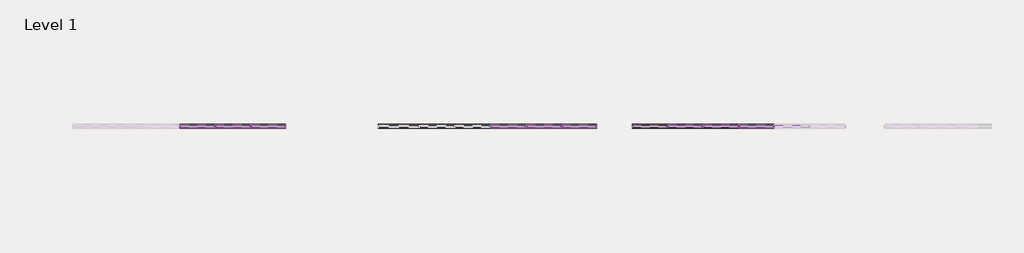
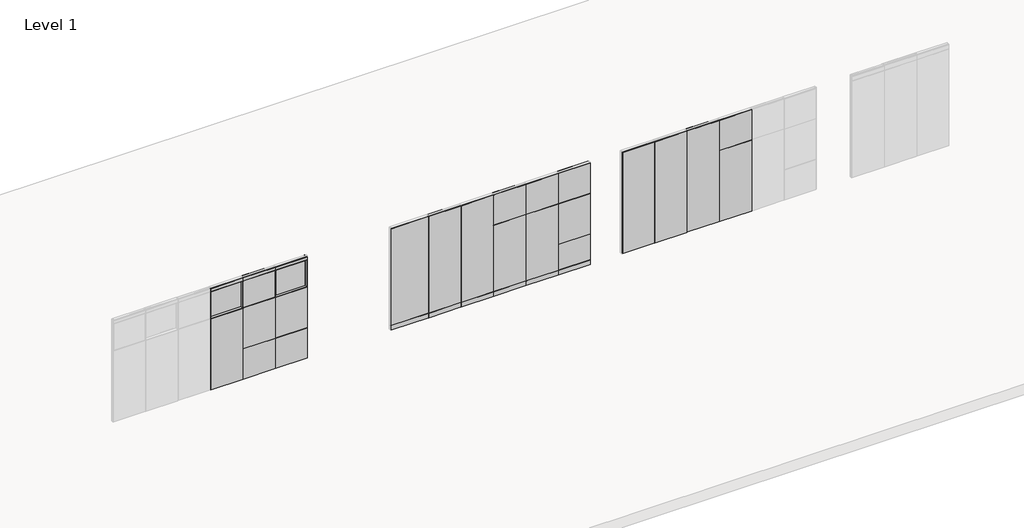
# One storey, part 15 of 22: 104 proxies.
"""IFC4 building model written with IfcOpenShell, lengths in millimetres."""

from ifc_helpers import new_model, si_unit, origin, place, context, project, spatial, transform, mapped, element, save
from components import fascia_teknion_ceiling_and_base_fpb1_33541465, fascia_teknion_ceiling_and_base_fpb1_cfc01414, fascia_teknion_ceiling_and_base_fpb1_a659cb20, fascia_teknion_ceiling_and_base_fpb1_658eb9e8, fascia_teknion_ceiling_and_base_fpb1_dc8595db, fascia_teknion_ceiling_and_base_fpb1_8b8bf328, fascia_teknion_ceiling_and_base_fpb1_c09701a2, fascia_teknion_ceiling_and_base_fpb1_cd47c96b, fascia_teknion_ceiling_and_base_fpc_0fdf7194, fascia_teknion_ceiling_and_base_fpc_b0ac7cd3, frame_teknion_horizontal_rail_5872ae1a, frame_teknion_horizontal_rail_46ee653b, frame_teknion_horizontal_rail_915d0f1b, glass_fascia_74ba01bb, glass_fascia_b43ce2ad, glass_fascia_649ace3c, level_ii_d92933f0, level_ii_5838736d, level_ii_d9937d3a, level_ii_09c6d2e8, level_ii_766fe766, level_ii_d745e7d9, level_ii_52e50c64, monolithic_level_i_61e75e15, monolithic_level_i_13c59c03, monolithic_level_i_604a00d2, monolithic_level_i_9525b381, monolithic_level_i_5f1d8d04, monolithic_level_i_f301c96f, monolithic_level_i_8e8b46f9, segmented_monolithic_level_i_26a9d159, segmented_monolithic_level_i_932c30e3, segmented_monolithic_level_i_a660c2bd, segmented_monolithic_level_i_f0d80afd, segmented_monolithic_level_i_954095a9, segmented_monolithic_level_ii_ef75357c, segmented_monolithic_level_ii_062cb124, working_wall_monolithic_level_i_dc7e04ae, working_wall_monolithic_level_i_f3196e79, working_wall_monolithic_level_i_c6955959, working_wall_monolithic_level_i_9d4bea93, working_wall_monolithic_level_i_ddf61f7f, working_wall_monolithic_level_i_49ea217e, working_wall_monolithic_level_i_39047d6b, working_wall_monolithic_level_iii_b79156b4, working_wall_monolithic_level_iii_e35548a4

model = new_model("IFC4")

# Units and contexts
model_context = context("Model", 3, world=origin())
ifc_project = project(units=[si_unit("LENGTHUNIT", "METRE", prefix="MILLI")], contexts=[model_context])

# Site, building, storey
site = spatial("IfcSite", under=ifc_project)
building = spatial("IfcBuilding", under=site)
storey = spatial("IfcBuildingStorey", under=building, Name="Level 1", Elevation=0.0)

# Proxies
placement = place(None, origin())
fascia_teknion_ceiling_and_base_fpb1_shape = fascia_teknion_ceiling_and_base_fpb1_33541465(model_context)
element("IfcBuildingElementProxy", 1, Name="Fascia-Teknion-Ceiling_and_Base : FPB1", ObjectType="Fascia-Teknion-Ceiling_and_Base : FPB1", at=placement, inside=storey, context=model_context, shape_type="MappedRepresentation", body=[
    mapped(fascia_teknion_ceiling_and_base_fpb1_shape, transform((56550.0272772, 1843.3402105, 15.875), x_axis=(1.0, 0.0, 0.0), y_axis=(0.0, 1.0, 0.0), z_axis=(0.0, 0.0, 1.0))),
])
fascia_teknion_ceiling_and_base_fpb1_2_shape = fascia_teknion_ceiling_and_base_fpb1_cfc01414(model_context)
element("IfcBuildingElementProxy", 2, Name="Fascia-Teknion-Ceiling_and_Base : FPB1", ObjectType="Fascia-Teknion-Ceiling_and_Base : FPB1", at=placement, inside=storey, context=model_context, shape_type="MappedRepresentation", body=[
    mapped(fascia_teknion_ceiling_and_base_fpb1_2_shape, transform((56550.0272772, 1781.3642105, 15.875), x_axis=(1.0, 0.0, 0.0), y_axis=(0.0, 1.0, 0.0), z_axis=(0.0, 0.0, 1.0))),
])
fascia_teknion_ceiling_and_base_fpb1_3_shape = fascia_teknion_ceiling_and_base_fpb1_a659cb20(model_context)
element("IfcBuildingElementProxy", 3, Name="Fascia-Teknion-Ceiling_and_Base : FPB1", ObjectType="Fascia-Teknion-Ceiling_and_Base : FPB1", at=placement, inside=storey, context=model_context, shape_type="MappedRepresentation", body=[
    mapped(fascia_teknion_ceiling_and_base_fpb1_3_shape, transform((54728.2221991, 1843.3402105, 15.875), x_axis=(1.0, 0.0, 0.0), y_axis=(0.0, 1.0, 0.0), z_axis=(0.0, 0.0, 1.0))),
])
element("IfcBuildingElementProxy", 4, Name="Fascia-Teknion-Ceiling_and_Base : FPB1", ObjectType="Fascia-Teknion-Ceiling_and_Base : FPB1", at=placement, inside=storey, context=model_context, shape_type="MappedRepresentation", body=[
    mapped(fascia_teknion_ceiling_and_base_fpb1_3_shape, transform((55642.6221991, 1843.3402105, 15.875), x_axis=(1.0, 0.0, 0.0), y_axis=(0.0, 1.0, 0.0), z_axis=(0.0, 0.0, 1.0))),
])
element("IfcBuildingElementProxy", 5, Name="Fascia-Teknion-Ceiling_and_Base : FPB1", ObjectType="Fascia-Teknion-Ceiling_and_Base : FPB1", at=placement, inside=storey, context=model_context, shape_type="MappedRepresentation", body=[
    mapped(fascia_teknion_ceiling_and_base_fpb1_3_shape, transform((52899.4221991, 1843.3402105, 15.875), x_axis=(1.0, 0.0, 0.0), y_axis=(0.0, 1.0, 0.0), z_axis=(0.0, 0.0, 1.0))),
])
element("IfcBuildingElementProxy", 6, Name="Fascia-Teknion-Ceiling_and_Base : FPB1", ObjectType="Fascia-Teknion-Ceiling_and_Base : FPB1", at=placement, inside=storey, context=model_context, shape_type="MappedRepresentation", body=[
    mapped(fascia_teknion_ceiling_and_base_fpb1_3_shape, transform((53813.8221991, 1843.3402105, 15.875), x_axis=(1.0, 0.0, 0.0), y_axis=(0.0, 1.0, 0.0), z_axis=(0.0, 0.0, 1.0))),
])
fascia_teknion_ceiling_and_base_fpb1_4_shape = fascia_teknion_ceiling_and_base_fpb1_658eb9e8(model_context)
element("IfcBuildingElementProxy", 7, Name="Fascia-Teknion-Ceiling_and_Base : FPB1", ObjectType="Fascia-Teknion-Ceiling_and_Base : FPB1", at=placement, inside=storey, context=model_context, shape_type="MappedRepresentation", body=[
    mapped(fascia_teknion_ceiling_and_base_fpb1_4_shape, transform((54728.2221991, 1781.3642105, 15.875), x_axis=(1.0, 0.0, 0.0), y_axis=(0.0, 1.0, 0.0), z_axis=(0.0, 0.0, 1.0))),
])
element("IfcBuildingElementProxy", 8, Name="Fascia-Teknion-Ceiling_and_Base : FPB1", ObjectType="Fascia-Teknion-Ceiling_and_Base : FPB1", at=placement, inside=storey, context=model_context, shape_type="MappedRepresentation", body=[
    mapped(fascia_teknion_ceiling_and_base_fpb1_4_shape, transform((55642.6221991, 1781.3642105, 15.875), x_axis=(1.0, 0.0, 0.0), y_axis=(0.0, 1.0, 0.0), z_axis=(0.0, 0.0, 1.0))),
])
element("IfcBuildingElementProxy", 9, Name="Fascia-Teknion-Ceiling_and_Base : FPB1", ObjectType="Fascia-Teknion-Ceiling_and_Base : FPB1", at=placement, inside=storey, context=model_context, shape_type="MappedRepresentation", body=[
    mapped(fascia_teknion_ceiling_and_base_fpb1_4_shape, transform((52899.4221991, 1781.3642105, 15.875), x_axis=(1.0, 0.0, 0.0), y_axis=(0.0, 1.0, 0.0), z_axis=(0.0, 0.0, 1.0))),
])
element("IfcBuildingElementProxy", 10, Name="Fascia-Teknion-Ceiling_and_Base : FPB1", ObjectType="Fascia-Teknion-Ceiling_and_Base : FPB1", at=placement, inside=storey, context=model_context, shape_type="MappedRepresentation", body=[
    mapped(fascia_teknion_ceiling_and_base_fpb1_4_shape, transform((53813.8221991, 1781.3642105, 15.875), x_axis=(1.0, 0.0, 0.0), y_axis=(0.0, 1.0, 0.0), z_axis=(0.0, 0.0, 1.0))),
])
fascia_teknion_ceiling_and_base_fpb1_5_shape = fascia_teknion_ceiling_and_base_fpb1_dc8595db(model_context)
element("IfcBuildingElementProxy", 11, Name="Fascia-Teknion-Ceiling_and_Base : FPB1", ObjectType="Fascia-Teknion-Ceiling_and_Base : FPB1", at=placement, inside=storey, context=model_context, shape_type="MappedRepresentation", body=[
    mapped(fascia_teknion_ceiling_and_base_fpb1_5_shape, transform((51915.817121, 1781.3642105, 15.875), x_axis=(1.0, 0.0, 0.0), y_axis=(0.0, 1.0, 0.0), z_axis=(0.0, 0.0, 1.0))),
])
fascia_teknion_ceiling_and_base_fpb1_6_shape = fascia_teknion_ceiling_and_base_fpb1_8b8bf328(model_context)
element("IfcBuildingElementProxy", 12, Name="Fascia-Teknion-Ceiling_and_Base : FPB1", ObjectType="Fascia-Teknion-Ceiling_and_Base : FPB1", at=placement, inside=storey, context=model_context, shape_type="MappedRepresentation", body=[
    mapped(fascia_teknion_ceiling_and_base_fpb1_6_shape, transform((51915.817121, 1843.3402105, 15.875), x_axis=(1.0, 0.0, 0.0), y_axis=(0.0, 1.0, 0.0), z_axis=(0.0, 0.0, 1.0))),
])
fascia_teknion_ceiling_and_base_fpb1_7_shape = fascia_teknion_ceiling_and_base_fpb1_c09701a2(model_context)
element("IfcBuildingElementProxy", 13, Name="Fascia-Teknion-Ceiling_and_Base : FPC", ObjectType="Fascia-Teknion-Ceiling_and_Base : FPC", at=placement, inside=storey, context=model_context, shape_type="MappedRepresentation", body=[
    mapped(fascia_teknion_ceiling_and_base_fpb1_7_shape, transform((48570.2009696, 1781.3642105, 2950.845), x_axis=(1.0, 0.0, 0.0), y_axis=(0.0, 1.0, 0.0), z_axis=(0.0, 0.0, 1.0))),
])
fascia_teknion_ceiling_and_base_fpb1_8_shape = fascia_teknion_ceiling_and_base_fpb1_cd47c96b(model_context)
element("IfcBuildingElementProxy", 14, Name="Fascia-Teknion-Ceiling_and_Base : FPC", ObjectType="Fascia-Teknion-Ceiling_and_Base : FPC", at=placement, inside=storey, context=model_context, shape_type="MappedRepresentation", body=[
    mapped(fascia_teknion_ceiling_and_base_fpb1_8_shape, transform((48570.2009696, 1843.3402105, 2950.845), x_axis=(1.0, 0.0, 0.0), y_axis=(0.0, 1.0, 0.0), z_axis=(0.0, 0.0, 1.0))),
])
fascia_teknion_ceiling_and_base_fpc_shape = fascia_teknion_ceiling_and_base_fpc_0fdf7194(model_context)
element("IfcBuildingElementProxy", 15, Name="Fascia-Teknion-Ceiling_and_Base : FPC", ObjectType="Fascia-Teknion-Ceiling_and_Base : FPC", at=placement, inside=storey, context=model_context, shape_type="MappedRepresentation", body=[
    mapped(fascia_teknion_ceiling_and_base_fpc_shape, transform((47662.7958915, 1781.3642105, 2950.845), x_axis=(1.0, 0.0, 0.0), y_axis=(0.0, 1.0, 0.0), z_axis=(0.0, 0.0, 1.0))),
])
element("IfcBuildingElementProxy", 16, Name="Fascia-Teknion-Ceiling_and_Base : FPC", ObjectType="Fascia-Teknion-Ceiling_and_Base : FPC", at=placement, inside=storey, context=model_context, shape_type="MappedRepresentation", body=[
    mapped(fascia_teknion_ceiling_and_base_fpc_shape, transform((46748.3958915, 1781.3642105, 2950.845), x_axis=(1.0, 0.0, 0.0), y_axis=(0.0, 1.0, 0.0), z_axis=(0.0, 0.0, 1.0))),
])
fascia_teknion_ceiling_and_base_fpc_2_shape = fascia_teknion_ceiling_and_base_fpc_b0ac7cd3(model_context)
element("IfcBuildingElementProxy", 17, Name="Fascia-Teknion-Ceiling_and_Base : FPC", ObjectType="Fascia-Teknion-Ceiling_and_Base : FPC", at=placement, inside=storey, context=model_context, shape_type="MappedRepresentation", body=[
    mapped(fascia_teknion_ceiling_and_base_fpc_2_shape, transform((47662.7958915, 1843.3402105, 2950.845), x_axis=(1.0, 0.0, 0.0), y_axis=(0.0, 1.0, 0.0), z_axis=(0.0, 0.0, 1.0))),
])
element("IfcBuildingElementProxy", 18, Name="Fascia-Teknion-Ceiling_and_Base : FPC", ObjectType="Fascia-Teknion-Ceiling_and_Base : FPC", at=placement, inside=storey, context=model_context, shape_type="MappedRepresentation", body=[
    mapped(fascia_teknion_ceiling_and_base_fpc_2_shape, transform((46748.3958915, 1843.3402105, 2950.845), x_axis=(1.0, 0.0, 0.0), y_axis=(0.0, 1.0, 0.0), z_axis=(0.0, 0.0, 1.0))),
])
frame_teknion_horizontal_rail_shape = frame_teknion_horizontal_rail_5872ae1a(model_context)
element("IfcBuildingElementProxy", 19, Name="Frame-Teknion-Horizontal_Rail : FPKK", ObjectType="Frame-Teknion-Horizontal_Rail : FPKK", at=placement, inside=storey, context=model_context, shape_type="MappedRepresentation", body=[
    mapped(frame_teknion_horizontal_rail_shape, transform((56550.0272772, 1812.3522105, 917.575), x_axis=(1.0, 0.0, 0.0), y_axis=(0.0, 1.0, 0.0), z_axis=(0.0, 0.0, 1.0))),
])
element("IfcBuildingElementProxy", 20, Name="Frame-Teknion-Horizontal_Rail : FPKK", ObjectType="Frame-Teknion-Horizontal_Rail : FPKK", at=placement, inside=storey, context=model_context, shape_type="MappedRepresentation", body=[
    mapped(frame_teknion_horizontal_rail_shape, transform((56550.0272772, 1812.3522105, 151.257), x_axis=(1.0, 0.0, 0.0), y_axis=(0.0, 1.0, 0.0), z_axis=(0.0, 0.0, 1.0))),
])
element("IfcBuildingElementProxy", 21, Name="Frame-Teknion-Horizontal_Rail : FPKK", ObjectType="Frame-Teknion-Horizontal_Rail : FPKK", at=placement, inside=storey, context=model_context, shape_type="MappedRepresentation", body=[
    mapped(frame_teknion_horizontal_rail_shape, transform((56550.0272772, 1812.3522105, 2136.775), x_axis=(1.0, 0.0, 0.0), y_axis=(0.0, 1.0, 0.0), z_axis=(0.0, 0.0, 1.0))),
])
element("IfcBuildingElementProxy", 22, Name="Frame-Teknion-Horizontal_Rail : FPKK", ObjectType="Frame-Teknion-Horizontal_Rail : FPKK", at=placement, inside=storey, context=model_context, shape_type="MappedRepresentation", body=[
    mapped(frame_teknion_horizontal_rail_shape, transform((58362.0641382, 1812.3522105, 2136.775), x_axis=(1.0, 0.0, 0.0), y_axis=(0.0, 1.0, 0.0), z_axis=(0.0, 0.0, 1.0))),
])
element("IfcBuildingElementProxy", 23, Name="Frame-Teknion-Horizontal_Rail : FPKK", ObjectType="Frame-Teknion-Horizontal_Rail : FPKK", at=placement, inside=storey, context=model_context, shape_type="MappedRepresentation", body=[
    mapped(frame_teknion_horizontal_rail_shape, transform((58362.0641382, 1812.3522105, 151.257), x_axis=(1.0, 0.0, 0.0), y_axis=(0.0, 1.0, 0.0), z_axis=(0.0, 0.0, 1.0))),
])
element("IfcBuildingElementProxy", 24, Name="Frame-Teknion-Horizontal_Rail : FPKK", ObjectType="Frame-Teknion-Horizontal_Rail : FPKK", at=placement, inside=storey, context=model_context, shape_type="MappedRepresentation", body=[
    mapped(frame_teknion_horizontal_rail_shape, transform((58362.0641382, 1812.3522105, 2898.3305), x_axis=(1.0, 0.0, 0.0), y_axis=(0.0, 1.0, 0.0), z_axis=(0.0, 0.0, 1.0))),
])
element("IfcBuildingElementProxy", 25, Name="Frame-Teknion-Horizontal_Rail : FPKK", ObjectType="Frame-Teknion-Horizontal_Rail : FPKK", at=placement, inside=storey, context=model_context, shape_type="MappedRepresentation", body=[
    mapped(frame_teknion_horizontal_rail_shape, transform((62920.0742944, 1812.3522105, 2136.775), x_axis=(1.0, 0.0, 0.0), y_axis=(0.0, 1.0, 0.0), z_axis=(0.0, 0.0, 1.0))),
])
element("IfcBuildingElementProxy", 26, Name="Frame-Teknion-Horizontal_Rail : FPKK", ObjectType="Frame-Teknion-Horizontal_Rail : FPKK", at=placement, inside=storey, context=model_context, shape_type="MappedRepresentation", body=[
    mapped(frame_teknion_horizontal_rail_shape, transform((48570.2009696, 1812.3522105, 2136.775), x_axis=(1.0, 0.0, 0.0), y_axis=(0.0, 1.0, 0.0), z_axis=(0.0, 0.0, 1.0))),
])
element("IfcBuildingElementProxy", 27, Name="Frame-Teknion-Horizontal_Rail : FPKK", ObjectType="Frame-Teknion-Horizontal_Rail : FPKK", at=placement, inside=storey, context=model_context, shape_type="MappedRepresentation", body=[
    mapped(frame_teknion_horizontal_rail_shape, transform((48570.2009696, 1812.3522105, 2949.1305), x_axis=(1.0, 0.0, 0.0), y_axis=(0.0, 1.0, 0.0), z_axis=(0.0, 0.0, 1.0))),
])
element("IfcBuildingElementProxy", 28, Name="Frame-Teknion-Horizontal_Rail : FPKK", ObjectType="Frame-Teknion-Horizontal_Rail : FPKK", at=placement, inside=storey, context=model_context, shape_type="MappedRepresentation", body=[
    mapped(frame_teknion_horizontal_rail_shape, transform((48570.2009696, 1812.3522105, 917.575), x_axis=(1.0, 0.0, 0.0), y_axis=(0.0, 1.0, 0.0), z_axis=(0.0, 0.0, 1.0))),
])
frame_teknion_horizontal_rail_2_shape = frame_teknion_horizontal_rail_46ee653b(model_context)
element("IfcBuildingElementProxy", 29, Name="Frame-Teknion-Horizontal_Rail : FPKK", ObjectType="Frame-Teknion-Horizontal_Rail : FPKK", at=placement, inside=storey, context=model_context, shape_type="MappedRepresentation", body=[
    mapped(frame_teknion_horizontal_rail_2_shape, transform((52899.4221991, 1812.3522105, 917.575), x_axis=(1.0, 0.0, 0.0), y_axis=(0.0, 1.0, 0.0), z_axis=(0.0, 0.0, 1.0))),
])
element("IfcBuildingElementProxy", 30, Name="Frame-Teknion-Horizontal_Rail : FPKK", ObjectType="Frame-Teknion-Horizontal_Rail : FPKK", at=placement, inside=storey, context=model_context, shape_type="MappedRepresentation", body=[
    mapped(frame_teknion_horizontal_rail_2_shape, transform((52899.4221991, 1812.3522105, 151.257), x_axis=(1.0, 0.0, 0.0), y_axis=(0.0, 1.0, 0.0), z_axis=(0.0, 0.0, 1.0))),
])
element("IfcBuildingElementProxy", 31, Name="Frame-Teknion-Horizontal_Rail : FPKK", ObjectType="Frame-Teknion-Horizontal_Rail : FPKK", at=placement, inside=storey, context=model_context, shape_type="MappedRepresentation", body=[
    mapped(frame_teknion_horizontal_rail_2_shape, transform((53813.8221991, 1812.3522105, 917.575), x_axis=(1.0, 0.0, 0.0), y_axis=(0.0, 1.0, 0.0), z_axis=(0.0, 0.0, 1.0))),
])
element("IfcBuildingElementProxy", 32, Name="Frame-Teknion-Horizontal_Rail : FPKK", ObjectType="Frame-Teknion-Horizontal_Rail : FPKK", at=placement, inside=storey, context=model_context, shape_type="MappedRepresentation", body=[
    mapped(frame_teknion_horizontal_rail_2_shape, transform((53813.8221991, 1812.3522105, 151.257), x_axis=(1.0, 0.0, 0.0), y_axis=(0.0, 1.0, 0.0), z_axis=(0.0, 0.0, 1.0))),
])
element("IfcBuildingElementProxy", 33, Name="Frame-Teknion-Horizontal_Rail : FPKK", ObjectType="Frame-Teknion-Horizontal_Rail : FPKK", at=placement, inside=storey, context=model_context, shape_type="MappedRepresentation", body=[
    mapped(frame_teknion_horizontal_rail_2_shape, transform((54728.2221991, 1812.3522105, 151.257), x_axis=(1.0, 0.0, 0.0), y_axis=(0.0, 1.0, 0.0), z_axis=(0.0, 0.0, 1.0))),
])
element("IfcBuildingElementProxy", 34, Name="Frame-Teknion-Horizontal_Rail : FPKK", ObjectType="Frame-Teknion-Horizontal_Rail : FPKK", at=placement, inside=storey, context=model_context, shape_type="MappedRepresentation", body=[
    mapped(frame_teknion_horizontal_rail_2_shape, transform((55642.6221991, 1812.3522105, 151.257), x_axis=(1.0, 0.0, 0.0), y_axis=(0.0, 1.0, 0.0), z_axis=(0.0, 0.0, 1.0))),
])
element("IfcBuildingElementProxy", 35, Name="Frame-Teknion-Horizontal_Rail : FPKK", ObjectType="Frame-Teknion-Horizontal_Rail : FPKK", at=placement, inside=storey, context=model_context, shape_type="MappedRepresentation", body=[
    mapped(frame_teknion_horizontal_rail_2_shape, transform((54728.2221991, 1812.3522105, 2136.775), x_axis=(1.0, 0.0, 0.0), y_axis=(0.0, 1.0, 0.0), z_axis=(0.0, 0.0, 1.0))),
])
element("IfcBuildingElementProxy", 36, Name="Frame-Teknion-Horizontal_Rail : FPKK", ObjectType="Frame-Teknion-Horizontal_Rail : FPKK", at=placement, inside=storey, context=model_context, shape_type="MappedRepresentation", body=[
    mapped(frame_teknion_horizontal_rail_2_shape, transform((55642.6221991, 1812.3522105, 2136.775), x_axis=(1.0, 0.0, 0.0), y_axis=(0.0, 1.0, 0.0), z_axis=(0.0, 0.0, 1.0))),
])
element("IfcBuildingElementProxy", 37, Name="Frame-Teknion-Horizontal_Rail : FPKK", ObjectType="Frame-Teknion-Horizontal_Rail : FPKK", at=placement, inside=storey, context=model_context, shape_type="MappedRepresentation", body=[
    mapped(frame_teknion_horizontal_rail_2_shape, transform((59269.4692163, 1812.3522105, 2136.775), x_axis=(1.0, 0.0, 0.0), y_axis=(0.0, 1.0, 0.0), z_axis=(0.0, 0.0, 1.0))),
])
element("IfcBuildingElementProxy", 38, Name="Frame-Teknion-Horizontal_Rail : FPKK", ObjectType="Frame-Teknion-Horizontal_Rail : FPKK", at=placement, inside=storey, context=model_context, shape_type="MappedRepresentation", body=[
    mapped(frame_teknion_horizontal_rail_2_shape, transform((59269.4692163, 1812.3522105, 151.257), x_axis=(1.0, 0.0, 0.0), y_axis=(0.0, 1.0, 0.0), z_axis=(0.0, 0.0, 1.0))),
])
element("IfcBuildingElementProxy", 39, Name="Frame-Teknion-Horizontal_Rail : FPKK", ObjectType="Frame-Teknion-Horizontal_Rail : FPKK", at=placement, inside=storey, context=model_context, shape_type="MappedRepresentation", body=[
    mapped(frame_teknion_horizontal_rail_2_shape, transform((59269.4692163, 1812.3522105, 2898.3305), x_axis=(1.0, 0.0, 0.0), y_axis=(0.0, 1.0, 0.0), z_axis=(0.0, 0.0, 1.0))),
])
element("IfcBuildingElementProxy", 40, Name="Frame-Teknion-Horizontal_Rail : FPKK", ObjectType="Frame-Teknion-Horizontal_Rail : FPKK", at=placement, inside=storey, context=model_context, shape_type="MappedRepresentation", body=[
    mapped(frame_teknion_horizontal_rail_2_shape, transform((60183.8692163, 1812.3522105, 2136.775), x_axis=(1.0, 0.0, 0.0), y_axis=(0.0, 1.0, 0.0), z_axis=(0.0, 0.0, 1.0))),
])
element("IfcBuildingElementProxy", 41, Name="Frame-Teknion-Horizontal_Rail : FPKK", ObjectType="Frame-Teknion-Horizontal_Rail : FPKK", at=placement, inside=storey, context=model_context, shape_type="MappedRepresentation", body=[
    mapped(frame_teknion_horizontal_rail_2_shape, transform((60183.8692163, 1812.3522105, 151.257), x_axis=(1.0, 0.0, 0.0), y_axis=(0.0, 1.0, 0.0), z_axis=(0.0, 0.0, 1.0))),
])
element("IfcBuildingElementProxy", 42, Name="Frame-Teknion-Horizontal_Rail : FPKK", ObjectType="Frame-Teknion-Horizontal_Rail : FPKK", at=placement, inside=storey, context=model_context, shape_type="MappedRepresentation", body=[
    mapped(frame_teknion_horizontal_rail_2_shape, transform((60183.8692163, 1812.3522105, 2898.3305), x_axis=(1.0, 0.0, 0.0), y_axis=(0.0, 1.0, 0.0), z_axis=(0.0, 0.0, 1.0))),
])
element("IfcBuildingElementProxy", 43, Name="Frame-Teknion-Horizontal_Rail : FPKK", ObjectType="Frame-Teknion-Horizontal_Rail : FPKK", at=placement, inside=storey, context=model_context, shape_type="MappedRepresentation", body=[
    mapped(frame_teknion_horizontal_rail_2_shape, transform((61098.2692163, 1812.3522105, 2136.775), x_axis=(1.0, 0.0, 0.0), y_axis=(0.0, 1.0, 0.0), z_axis=(0.0, 0.0, 1.0))),
])
element("IfcBuildingElementProxy", 44, Name="Frame-Teknion-Horizontal_Rail : FPKK", ObjectType="Frame-Teknion-Horizontal_Rail : FPKK", at=placement, inside=storey, context=model_context, shape_type="MappedRepresentation", body=[
    mapped(frame_teknion_horizontal_rail_2_shape, transform((61098.2692163, 1812.3522105, 151.257), x_axis=(1.0, 0.0, 0.0), y_axis=(0.0, 1.0, 0.0), z_axis=(0.0, 0.0, 1.0))),
])
element("IfcBuildingElementProxy", 45, Name="Frame-Teknion-Horizontal_Rail : FPKK", ObjectType="Frame-Teknion-Horizontal_Rail : FPKK", at=placement, inside=storey, context=model_context, shape_type="MappedRepresentation", body=[
    mapped(frame_teknion_horizontal_rail_2_shape, transform((61098.2692163, 1812.3522105, 2898.3305), x_axis=(1.0, 0.0, 0.0), y_axis=(0.0, 1.0, 0.0), z_axis=(0.0, 0.0, 1.0))),
])
element("IfcBuildingElementProxy", 46, Name="Frame-Teknion-Horizontal_Rail : FPKK", ObjectType="Frame-Teknion-Horizontal_Rail : FPKK", at=placement, inside=storey, context=model_context, shape_type="MappedRepresentation", body=[
    mapped(frame_teknion_horizontal_rail_2_shape, transform((62012.6692163, 1812.3522105, 2136.775), x_axis=(1.0, 0.0, 0.0), y_axis=(0.0, 1.0, 0.0), z_axis=(0.0, 0.0, 1.0))),
])
element("IfcBuildingElementProxy", 47, Name="Frame-Teknion-Horizontal_Rail : FPKK", ObjectType="Frame-Teknion-Horizontal_Rail : FPKK", at=placement, inside=storey, context=model_context, shape_type="MappedRepresentation", body=[
    mapped(frame_teknion_horizontal_rail_2_shape, transform((62012.6692163, 1812.3522105, 151.257), x_axis=(1.0, 0.0, 0.0), y_axis=(0.0, 1.0, 0.0), z_axis=(0.0, 0.0, 1.0))),
])
element("IfcBuildingElementProxy", 48, Name="Frame-Teknion-Horizontal_Rail : FPKK", ObjectType="Frame-Teknion-Horizontal_Rail : FPKK", at=placement, inside=storey, context=model_context, shape_type="MappedRepresentation", body=[
    mapped(frame_teknion_horizontal_rail_2_shape, transform((62012.6692163, 1812.3522105, 2898.3305), x_axis=(1.0, 0.0, 0.0), y_axis=(0.0, 1.0, 0.0), z_axis=(0.0, 0.0, 1.0))),
])
element("IfcBuildingElementProxy", 49, Name="Frame-Teknion-Horizontal_Rail : FPKK", ObjectType="Frame-Teknion-Horizontal_Rail : FPKK", at=placement, inside=storey, context=model_context, shape_type="MappedRepresentation", body=[
    mapped(frame_teknion_horizontal_rail_2_shape, transform((60183.8692163, 1812.3522105, 917.575), x_axis=(1.0, 0.0, 0.0), y_axis=(0.0, 1.0, 0.0), z_axis=(0.0, 0.0, 1.0))),
])
element("IfcBuildingElementProxy", 50, Name="Frame-Teknion-Horizontal_Rail : FPKK", ObjectType="Frame-Teknion-Horizontal_Rail : FPKK", at=placement, inside=storey, context=model_context, shape_type="MappedRepresentation", body=[
    mapped(frame_teknion_horizontal_rail_2_shape, transform((47662.7958915, 1812.3522105, 2136.775), x_axis=(1.0, 0.0, 0.0), y_axis=(0.0, 1.0, 0.0), z_axis=(0.0, 0.0, 1.0))),
])
element("IfcBuildingElementProxy", 51, Name="Frame-Teknion-Horizontal_Rail : FPKK", ObjectType="Frame-Teknion-Horizontal_Rail : FPKK", at=placement, inside=storey, context=model_context, shape_type="MappedRepresentation", body=[
    mapped(frame_teknion_horizontal_rail_2_shape, transform((47662.7958915, 1812.3522105, 2949.1305), x_axis=(1.0, 0.0, 0.0), y_axis=(0.0, 1.0, 0.0), z_axis=(0.0, 0.0, 1.0))),
])
element("IfcBuildingElementProxy", 52, Name="Frame-Teknion-Horizontal_Rail : FPKK", ObjectType="Frame-Teknion-Horizontal_Rail : FPKK", at=placement, inside=storey, context=model_context, shape_type="MappedRepresentation", body=[
    mapped(frame_teknion_horizontal_rail_2_shape, transform((46748.3958915, 1812.3522105, 2136.775), x_axis=(1.0, 0.0, 0.0), y_axis=(0.0, 1.0, 0.0), z_axis=(0.0, 0.0, 1.0))),
])
element("IfcBuildingElementProxy", 53, Name="Frame-Teknion-Horizontal_Rail : FPKK", ObjectType="Frame-Teknion-Horizontal_Rail : FPKK", at=placement, inside=storey, context=model_context, shape_type="MappedRepresentation", body=[
    mapped(frame_teknion_horizontal_rail_2_shape, transform((46748.3958915, 1812.3522105, 2949.1305), x_axis=(1.0, 0.0, 0.0), y_axis=(0.0, 1.0, 0.0), z_axis=(0.0, 0.0, 1.0))),
])
element("IfcBuildingElementProxy", 54, Name="Frame-Teknion-Horizontal_Rail : FPKK", ObjectType="Frame-Teknion-Horizontal_Rail : FPKK", at=placement, inside=storey, context=model_context, shape_type="MappedRepresentation", body=[
    mapped(frame_teknion_horizontal_rail_2_shape, transform((46748.3958915, 1812.3522105, 917.575), x_axis=(1.0, 0.0, 0.0), y_axis=(0.0, 1.0, 0.0), z_axis=(0.0, 0.0, 1.0))),
])
element("IfcBuildingElementProxy", 55, Name="Frame-Teknion-Horizontal_Rail : FPKK", ObjectType="Frame-Teknion-Horizontal_Rail : FPKK", at=placement, inside=storey, context=model_context, shape_type="MappedRepresentation", body=[
    mapped(frame_teknion_horizontal_rail_2_shape, transform((47662.7958915, 1812.3522105, 917.575), x_axis=(1.0, 0.0, 0.0), y_axis=(0.0, 1.0, 0.0), z_axis=(0.0, 0.0, 1.0))),
])
frame_teknion_horizontal_rail_3_shape = frame_teknion_horizontal_rail_915d0f1b(model_context)
element("IfcBuildingElementProxy", 56, Name="Frame-Teknion-Horizontal_Rail : FPKK", ObjectType="Frame-Teknion-Horizontal_Rail : FPKK", at=placement, inside=storey, context=model_context, shape_type="MappedRepresentation", body=[
    mapped(frame_teknion_horizontal_rail_3_shape, transform((51915.817121, 1812.3522105, 917.575), x_axis=(1.0, 0.0, 0.0), y_axis=(0.0, 1.0, 0.0), z_axis=(0.0, 0.0, 1.0))),
])
element("IfcBuildingElementProxy", 57, Name="Frame-Teknion-Horizontal_Rail : FPKK", ObjectType="Frame-Teknion-Horizontal_Rail : FPKK", at=placement, inside=storey, context=model_context, shape_type="MappedRepresentation", body=[
    mapped(frame_teknion_horizontal_rail_3_shape, transform((51915.817121, 1812.3522105, 151.257), x_axis=(1.0, 0.0, 0.0), y_axis=(0.0, 1.0, 0.0), z_axis=(0.0, 0.0, 1.0))),
])
glass_fascia_shape = glass_fascia_74ba01bb(model_context)
element("IfcBuildingElementProxy", 58, Name="Panel-Fascia-Teknion-Altos-Glass : Glass Fascia", ObjectType="Panel-Fascia-Teknion-Altos-Glass : Glass Fascia", at=placement, inside=storey, context=model_context, shape_type="MappedRepresentation", body=[
    mapped(glass_fascia_shape, transform((48570.2009696, 1812.3522105, 2136.775), x_axis=(1.0, 0.0, 0.0), y_axis=(0.0, 1.0, 0.0), z_axis=(0.0, 0.0, 1.0))),
])
glass_fascia_2_shape = glass_fascia_b43ce2ad(model_context)
element("IfcBuildingElementProxy", 59, Name="Panel-Fascia-Teknion-Altos-Glass : Glass Fascia", ObjectType="Panel-Fascia-Teknion-Altos-Glass : Glass Fascia", at=placement, inside=storey, context=model_context, shape_type="MappedRepresentation", body=[
    mapped(glass_fascia_2_shape, transform((47662.7958915, 1812.3522105, 2136.775), x_axis=(1.0, 0.0, 0.0), y_axis=(0.0, 1.0, 0.0), z_axis=(0.0, 0.0, 1.0))),
])
glass_fascia_3_shape = glass_fascia_649ace3c(model_context)
element("IfcBuildingElementProxy", 60, Name="Panel-Fascia-Teknion-Altos-Glass : Glass Fascia", ObjectType="Panel-Fascia-Teknion-Altos-Glass : Glass Fascia", at=placement, inside=storey, context=model_context, shape_type="MappedRepresentation", body=[
    mapped(glass_fascia_3_shape, transform((46748.3958915, 1812.3522105, 2136.775), x_axis=(1.0, 0.0, 0.0), y_axis=(0.0, 1.0, 0.0), z_axis=(0.0, 0.0, 1.0))),
])
level_ii_shape = level_ii_d92933f0(model_context)
element("IfcBuildingElementProxy", 61, Name="Panel-Fascia-Teknion-Altos-Standard : Level II", ObjectType="Panel-Fascia-Teknion-Altos-Standard : Level II", at=placement, inside=storey, context=model_context, shape_type="MappedRepresentation", body=[
    mapped(level_ii_shape, transform((56550.0272772, 1852.8652105, 917.575), x_axis=(1.0, 0.0, 0.0), y_axis=(0.0, 1.0, 0.0), z_axis=(0.0, 0.0, 1.0))),
])
level_ii_2_shape = level_ii_5838736d(model_context)
element("IfcBuildingElementProxy", 62, Name="Panel-Fascia-Teknion-Altos-Standard : Level II", ObjectType="Panel-Fascia-Teknion-Altos-Standard : Level II", at=placement, inside=storey, context=model_context, shape_type="MappedRepresentation", body=[
    mapped(level_ii_2_shape, transform((60183.8692163, 1852.8652105, 917.575), x_axis=(1.0, 0.0, 0.0), y_axis=(0.0, 1.0, 0.0), z_axis=(0.0, 0.0, 1.0))),
])
level_ii_3_shape = level_ii_d9937d3a(model_context)
element("IfcBuildingElementProxy", 63, Name="Panel-Fascia-Teknion-Altos-Standard : Level II", ObjectType="Panel-Fascia-Teknion-Altos-Standard : Level II", at=placement, inside=storey, context=model_context, shape_type="MappedRepresentation", body=[
    mapped(level_ii_3_shape, transform((56550.0272772, 1771.8392105, 917.575), x_axis=(1.0, 0.0, 0.0), y_axis=(0.0, 1.0, 0.0), z_axis=(0.0, 0.0, 1.0))),
])
level_ii_4_shape = level_ii_09c6d2e8(model_context)
element("IfcBuildingElementProxy", 64, Name="Panel-Fascia-Teknion-Altos-Standard : Level II", ObjectType="Panel-Fascia-Teknion-Altos-Standard : Level II", at=placement, inside=storey, context=model_context, shape_type="MappedRepresentation", body=[
    mapped(level_ii_4_shape, transform((46748.3958915, 1852.8652105, 917.575), x_axis=(1.0, 0.0, 0.0), y_axis=(0.0, 1.0, 0.0), z_axis=(0.0, 0.0, 1.0))),
])
element("IfcBuildingElementProxy", 65, Name="Panel-Fascia-Teknion-Altos-Standard : Level II", ObjectType="Panel-Fascia-Teknion-Altos-Standard : Level II", at=placement, inside=storey, context=model_context, shape_type="MappedRepresentation", body=[
    mapped(level_ii_4_shape, transform((47662.7958915, 1852.8652105, 917.575), x_axis=(1.0, 0.0, 0.0), y_axis=(0.0, 1.0, 0.0), z_axis=(0.0, 0.0, 1.0))),
])
level_ii_5_shape = level_ii_766fe766(model_context)
element("IfcBuildingElementProxy", 66, Name="Panel-Fascia-Teknion-Altos-Standard : Level II", ObjectType="Panel-Fascia-Teknion-Altos-Standard : Level II", at=placement, inside=storey, context=model_context, shape_type="MappedRepresentation", body=[
    mapped(level_ii_5_shape, transform((48570.2009696, 1771.8392105, 917.575), x_axis=(1.0, 0.0, 0.0), y_axis=(0.0, 1.0, 0.0), z_axis=(0.0, 0.0, 1.0))),
])
level_ii_6_shape = level_ii_d745e7d9(model_context)
element("IfcBuildingElementProxy", 67, Name="Panel-Fascia-Teknion-Altos-Standard : Level II", ObjectType="Panel-Fascia-Teknion-Altos-Standard : Level II", at=placement, inside=storey, context=model_context, shape_type="MappedRepresentation", body=[
    mapped(level_ii_6_shape, transform((48570.2009696, 1852.8652105, 917.575), x_axis=(1.0, 0.0, 0.0), y_axis=(0.0, 1.0, 0.0), z_axis=(0.0, 0.0, 1.0))),
])
level_ii_7_shape = level_ii_52e50c64(model_context)
element("IfcBuildingElementProxy", 68, Name="Panel-Fascia-Teknion-Altos-Standard : Level II", ObjectType="Panel-Fascia-Teknion-Altos-Standard : Level II", at=placement, inside=storey, context=model_context, shape_type="MappedRepresentation", body=[
    mapped(level_ii_7_shape, transform((47662.7958915, 1771.8392105, 917.575), x_axis=(1.0, 0.0, 0.0), y_axis=(0.0, 1.0, 0.0), z_axis=(0.0, 0.0, 1.0))),
])
monolithic_level_i_shape = monolithic_level_i_61e75e15(model_context)
element("IfcBuildingElementProxy", 69, Name="Panel-Fascia-Teknion-Altos-Standard : Monolithic Level I", ObjectType="Panel-Fascia-Teknion-Altos-Standard : Monolithic Level I", at=placement, inside=storey, context=model_context, shape_type="MappedRepresentation", body=[
    mapped(monolithic_level_i_shape, transform((58362.0641382, 1771.8392105, 12.7), x_axis=(1.0, 0.0, 0.0), y_axis=(0.0, 1.0, 0.0), z_axis=(0.0, 0.0, 1.0))),
])
monolithic_level_i_2_shape = monolithic_level_i_13c59c03(model_context)
element("IfcBuildingElementProxy", 70, Name="Panel-Fascia-Teknion-Altos-Standard : Monolithic Level I", ObjectType="Panel-Fascia-Teknion-Altos-Standard : Monolithic Level I", at=placement, inside=storey, context=model_context, shape_type="MappedRepresentation", body=[
    mapped(monolithic_level_i_2_shape, transform((59269.4692163, 1771.8392105, 12.7), x_axis=(1.0, 0.0, 0.0), y_axis=(0.0, 1.0, 0.0), z_axis=(0.0, 0.0, 1.0))),
])
element("IfcBuildingElementProxy", 71, Name="Panel-Fascia-Teknion-Altos-Standard : Monolithic Level I", ObjectType="Panel-Fascia-Teknion-Altos-Standard : Monolithic Level I", at=placement, inside=storey, context=model_context, shape_type="MappedRepresentation", body=[
    mapped(monolithic_level_i_2_shape, transform((60183.8692163, 1771.8392105, 12.7), x_axis=(1.0, 0.0, 0.0), y_axis=(0.0, 1.0, 0.0), z_axis=(0.0, 0.0, 1.0))),
])
monolithic_level_i_3_shape = monolithic_level_i_604a00d2(model_context)
element("IfcBuildingElementProxy", 72, Name="Panel-Fascia-Teknion-Altos-Standard : Monolithic Level I", ObjectType="Panel-Fascia-Teknion-Altos-Standard : Monolithic Level I", at=placement, inside=storey, context=model_context, shape_type="MappedRepresentation", body=[
    mapped(monolithic_level_i_3_shape, transform((52899.4221991, 1771.8392105, 151.257), x_axis=(1.0, 0.0, 0.0), y_axis=(0.0, 1.0, 0.0), z_axis=(0.0, 0.0, 1.0))),
])
element("IfcBuildingElementProxy", 73, Name="Panel-Fascia-Teknion-Altos-Standard : Monolithic Level I", ObjectType="Panel-Fascia-Teknion-Altos-Standard : Monolithic Level I", at=placement, inside=storey, context=model_context, shape_type="MappedRepresentation", body=[
    mapped(monolithic_level_i_3_shape, transform((53813.8221991, 1771.8392105, 151.257), x_axis=(1.0, 0.0, 0.0), y_axis=(0.0, 1.0, 0.0), z_axis=(0.0, 0.0, 1.0))),
])
monolithic_level_i_4_shape = monolithic_level_i_9525b381(model_context)
element("IfcBuildingElementProxy", 74, Name="Panel-Fascia-Teknion-Altos-Standard : Monolithic Level I", ObjectType="Panel-Fascia-Teknion-Altos-Standard : Monolithic Level I", at=placement, inside=storey, context=model_context, shape_type="MappedRepresentation", body=[
    mapped(monolithic_level_i_4_shape, transform((52899.4221991, 1852.8652105, 151.257), x_axis=(1.0, 0.0, 0.0), y_axis=(0.0, 1.0, 0.0), z_axis=(0.0, 0.0, 1.0))),
])
element("IfcBuildingElementProxy", 75, Name="Panel-Fascia-Teknion-Altos-Standard : Monolithic Level I", ObjectType="Panel-Fascia-Teknion-Altos-Standard : Monolithic Level I", at=placement, inside=storey, context=model_context, shape_type="MappedRepresentation", body=[
    mapped(monolithic_level_i_4_shape, transform((53813.8221991, 1852.8652105, 151.257), x_axis=(1.0, 0.0, 0.0), y_axis=(0.0, 1.0, 0.0), z_axis=(0.0, 0.0, 1.0))),
])
monolithic_level_i_5_shape = monolithic_level_i_5f1d8d04(model_context)
element("IfcBuildingElementProxy", 76, Name="Panel-Fascia-Teknion-Altos-Standard : Monolithic Level I", ObjectType="Panel-Fascia-Teknion-Altos-Standard : Monolithic Level I", at=placement, inside=storey, context=model_context, shape_type="MappedRepresentation", body=[
    mapped(monolithic_level_i_5_shape, transform((58362.0641382, 1852.8652105, 12.7), x_axis=(1.0, 0.0, 0.0), y_axis=(0.0, 1.0, 0.0), z_axis=(0.0, 0.0, 1.0))),
])
monolithic_level_i_6_shape = monolithic_level_i_f301c96f(model_context)
element("IfcBuildingElementProxy", 77, Name="Panel-Fascia-Teknion-Altos-Standard : Monolithic Level I", ObjectType="Panel-Fascia-Teknion-Altos-Standard : Monolithic Level I", at=placement, inside=storey, context=model_context, shape_type="MappedRepresentation", body=[
    mapped(monolithic_level_i_6_shape, transform((51915.817121, 1771.8392105, 151.257), x_axis=(1.0, 0.0, 0.0), y_axis=(0.0, 1.0, 0.0), z_axis=(0.0, 0.0, 1.0))),
])
monolithic_level_i_7_shape = monolithic_level_i_8e8b46f9(model_context)
element("IfcBuildingElementProxy", 78, Name="Panel-Fascia-Teknion-Altos-Standard : Monolithic Level I", ObjectType="Panel-Fascia-Teknion-Altos-Standard : Monolithic Level I", at=placement, inside=storey, context=model_context, shape_type="MappedRepresentation", body=[
    mapped(monolithic_level_i_7_shape, transform((51915.817121, 1852.8652105, 151.257), x_axis=(1.0, 0.0, 0.0), y_axis=(0.0, 1.0, 0.0), z_axis=(0.0, 0.0, 1.0))),
])
segmented_monolithic_level_i_shape = segmented_monolithic_level_i_26a9d159(model_context)
element("IfcBuildingElementProxy", 79, Name="Panel-Fascia-Teknion-Altos-Standard : Segmented Monolithic Level I", ObjectType="Panel-Fascia-Teknion-Altos-Standard : Segmented Monolithic Level I", at=placement, inside=storey, context=model_context, shape_type="MappedRepresentation", body=[
    mapped(segmented_monolithic_level_i_shape, transform((61098.2692163, 1771.8392105, 12.7), x_axis=(1.0, 0.0, 0.0), y_axis=(0.0, 1.0, 0.0), z_axis=(0.0, 0.0, 1.0))),
])
segmented_monolithic_level_i_2_shape = segmented_monolithic_level_i_932c30e3(model_context)
element("IfcBuildingElementProxy", 80, Name="Panel-Fascia-Teknion-Altos-Standard : Segmented Monolithic Level I", ObjectType="Panel-Fascia-Teknion-Altos-Standard : Segmented Monolithic Level I", at=placement, inside=storey, context=model_context, shape_type="MappedRepresentation", body=[
    mapped(segmented_monolithic_level_i_2_shape, transform((59269.4692163, 1852.8652105, 12.7), x_axis=(1.0, 0.0, 0.0), y_axis=(0.0, 1.0, 0.0), z_axis=(0.0, 0.0, 1.0))),
])
element("IfcBuildingElementProxy", 81, Name="Panel-Fascia-Teknion-Altos-Standard : Segmented Monolithic Level I", ObjectType="Panel-Fascia-Teknion-Altos-Standard : Segmented Monolithic Level I", at=placement, inside=storey, context=model_context, shape_type="MappedRepresentation", body=[
    mapped(segmented_monolithic_level_i_2_shape, transform((61098.2692163, 1852.8652105, 12.7), x_axis=(1.0, 0.0, 0.0), y_axis=(0.0, 1.0, 0.0), z_axis=(0.0, 0.0, 1.0))),
])
segmented_monolithic_level_i_3_shape = segmented_monolithic_level_i_a660c2bd(model_context)
element("IfcBuildingElementProxy", 82, Name="Panel-Fascia-Teknion-Altos-Standard : Segmented Monolithic Level I", ObjectType="Panel-Fascia-Teknion-Altos-Standard : Segmented Monolithic Level I", at=placement, inside=storey, context=model_context, shape_type="MappedRepresentation", body=[
    mapped(segmented_monolithic_level_i_3_shape, transform((54728.2221991, 1771.8392105, 151.257), x_axis=(1.0, 0.0, 0.0), y_axis=(0.0, 1.0, 0.0), z_axis=(0.0, 0.0, 1.0))),
])
element("IfcBuildingElementProxy", 83, Name="Panel-Fascia-Teknion-Altos-Standard : Segmented Monolithic Level I", ObjectType="Panel-Fascia-Teknion-Altos-Standard : Segmented Monolithic Level I", at=placement, inside=storey, context=model_context, shape_type="MappedRepresentation", body=[
    mapped(segmented_monolithic_level_i_3_shape, transform((55642.6221991, 1771.8392105, 151.257), x_axis=(1.0, 0.0, 0.0), y_axis=(0.0, 1.0, 0.0), z_axis=(0.0, 0.0, 1.0))),
])
segmented_monolithic_level_i_4_shape = segmented_monolithic_level_i_f0d80afd(model_context)
element("IfcBuildingElementProxy", 84, Name="Panel-Fascia-Teknion-Altos-Standard : Segmented Monolithic Level I", ObjectType="Panel-Fascia-Teknion-Altos-Standard : Segmented Monolithic Level I", at=placement, inside=storey, context=model_context, shape_type="MappedRepresentation", body=[
    mapped(segmented_monolithic_level_i_4_shape, transform((54728.2221991, 1852.8652105, 151.257), x_axis=(1.0, 0.0, 0.0), y_axis=(0.0, 1.0, 0.0), z_axis=(0.0, 0.0, 1.0))),
])
element("IfcBuildingElementProxy", 85, Name="Panel-Fascia-Teknion-Altos-Standard : Segmented Monolithic Level I", ObjectType="Panel-Fascia-Teknion-Altos-Standard : Segmented Monolithic Level I", at=placement, inside=storey, context=model_context, shape_type="MappedRepresentation", body=[
    mapped(segmented_monolithic_level_i_4_shape, transform((55642.6221991, 1852.8652105, 151.257), x_axis=(1.0, 0.0, 0.0), y_axis=(0.0, 1.0, 0.0), z_axis=(0.0, 0.0, 1.0))),
])
segmented_monolithic_level_i_5_shape = segmented_monolithic_level_i_954095a9(model_context)
element("IfcBuildingElementProxy", 86, Name="Panel-Fascia-Teknion-Altos-Standard : Segmented Monolithic Level I", ObjectType="Panel-Fascia-Teknion-Altos-Standard : Segmented Monolithic Level I", at=placement, inside=storey, context=model_context, shape_type="MappedRepresentation", body=[
    mapped(segmented_monolithic_level_i_5_shape, transform((46748.3958915, 1771.8392105, 12.7), x_axis=(1.0, 0.0, 0.0), y_axis=(0.0, 1.0, 0.0), z_axis=(0.0, 0.0, 1.0))),
])
segmented_monolithic_level_ii_shape = segmented_monolithic_level_ii_ef75357c(model_context)
element("IfcBuildingElementProxy", 87, Name="Panel-Fascia-Teknion-Altos-Standard : Segmented Monolithic Level II", ObjectType="Panel-Fascia-Teknion-Altos-Standard : Segmented Monolithic Level II", at=placement, inside=storey, context=model_context, shape_type="MappedRepresentation", body=[
    mapped(segmented_monolithic_level_ii_shape, transform((54728.2221991, 1771.8392105, 2136.775), x_axis=(1.0, 0.0, 0.0), y_axis=(0.0, 1.0, 0.0), z_axis=(0.0, 0.0, 1.0))),
])
element("IfcBuildingElementProxy", 88, Name="Panel-Fascia-Teknion-Altos-Standard : Segmented Monolithic Level II", ObjectType="Panel-Fascia-Teknion-Altos-Standard : Segmented Monolithic Level II", at=placement, inside=storey, context=model_context, shape_type="MappedRepresentation", body=[
    mapped(segmented_monolithic_level_ii_shape, transform((55642.6221991, 1771.8392105, 2136.775), x_axis=(1.0, 0.0, 0.0), y_axis=(0.0, 1.0, 0.0), z_axis=(0.0, 0.0, 1.0))),
])
element("IfcBuildingElementProxy", 89, Name="Panel-Fascia-Teknion-Altos-Standard : Segmented Monolithic Level II", ObjectType="Panel-Fascia-Teknion-Altos-Standard : Segmented Monolithic Level II", at=placement, inside=storey, context=model_context, shape_type="MappedRepresentation", body=[
    mapped(segmented_monolithic_level_ii_shape, transform((61098.2692163, 1771.8392105, 2136.775), x_axis=(1.0, 0.0, 0.0), y_axis=(0.0, 1.0, 0.0), z_axis=(0.0, 0.0, 1.0))),
])
segmented_monolithic_level_ii_2_shape = segmented_monolithic_level_ii_062cb124(model_context)
element("IfcBuildingElementProxy", 90, Name="Panel-Fascia-Teknion-Altos-Standard : Segmented Monolithic Level II", ObjectType="Panel-Fascia-Teknion-Altos-Standard : Segmented Monolithic Level II", at=placement, inside=storey, context=model_context, shape_type="MappedRepresentation", body=[
    mapped(segmented_monolithic_level_ii_2_shape, transform((54728.2221991, 1852.8652105, 2136.775), x_axis=(1.0, 0.0, 0.0), y_axis=(0.0, 1.0, 0.0), z_axis=(0.0, 0.0, 1.0))),
])
element("IfcBuildingElementProxy", 91, Name="Panel-Fascia-Teknion-Altos-Standard : Segmented Monolithic Level II", ObjectType="Panel-Fascia-Teknion-Altos-Standard : Segmented Monolithic Level II", at=placement, inside=storey, context=model_context, shape_type="MappedRepresentation", body=[
    mapped(segmented_monolithic_level_ii_2_shape, transform((55642.6221991, 1852.8652105, 2136.775), x_axis=(1.0, 0.0, 0.0), y_axis=(0.0, 1.0, 0.0), z_axis=(0.0, 0.0, 1.0))),
])
element("IfcBuildingElementProxy", 92, Name="Panel-Fascia-Teknion-Altos-Standard : Segmented Monolithic Level II", ObjectType="Panel-Fascia-Teknion-Altos-Standard : Segmented Monolithic Level II", at=placement, inside=storey, context=model_context, shape_type="MappedRepresentation", body=[
    mapped(segmented_monolithic_level_ii_2_shape, transform((59269.4692163, 1852.8652105, 2136.775), x_axis=(1.0, 0.0, 0.0), y_axis=(0.0, 1.0, 0.0), z_axis=(0.0, 0.0, 1.0))),
])
element("IfcBuildingElementProxy", 93, Name="Panel-Fascia-Teknion-Altos-Standard : Segmented Monolithic Level II", ObjectType="Panel-Fascia-Teknion-Altos-Standard : Segmented Monolithic Level II", at=placement, inside=storey, context=model_context, shape_type="MappedRepresentation", body=[
    mapped(segmented_monolithic_level_ii_2_shape, transform((61098.2692163, 1852.8652105, 2136.775), x_axis=(1.0, 0.0, 0.0), y_axis=(0.0, 1.0, 0.0), z_axis=(0.0, 0.0, 1.0))),
])
working_wall_monolithic_level_i_shape = working_wall_monolithic_level_i_dc7e04ae(model_context)
element("IfcBuildingElementProxy", 94, Name="Panel-Fascia-Teknion-Altos-Standard : Working Wall Monolithic Level I", ObjectType="Panel-Fascia-Teknion-Altos-Standard : Working Wall Monolithic Level I", at=placement, inside=storey, context=model_context, shape_type="MappedRepresentation", body=[
    mapped(working_wall_monolithic_level_i_shape, transform((56550.0272772, 1852.8652105, 151.257), x_axis=(1.0, 0.0, 0.0), y_axis=(0.0, 1.0, 0.0), z_axis=(0.0, 0.0, 1.0))),
])
working_wall_monolithic_level_i_2_shape = working_wall_monolithic_level_i_f3196e79(model_context)
element("IfcBuildingElementProxy", 95, Name="Panel-Fascia-Teknion-Altos-Standard : Working Wall Monolithic Level I", ObjectType="Panel-Fascia-Teknion-Altos-Standard : Working Wall Monolithic Level I", at=placement, inside=storey, context=model_context, shape_type="MappedRepresentation", body=[
    mapped(working_wall_monolithic_level_i_2_shape, transform((60183.8692163, 1852.8652105, 12.7), x_axis=(1.0, 0.0, 0.0), y_axis=(0.0, 1.0, 0.0), z_axis=(0.0, 0.0, 1.0))),
])
working_wall_monolithic_level_i_3_shape = working_wall_monolithic_level_i_c6955959(model_context)
element("IfcBuildingElementProxy", 96, Name="Panel-Fascia-Teknion-Altos-Standard : Working Wall Monolithic Level I", ObjectType="Panel-Fascia-Teknion-Altos-Standard : Working Wall Monolithic Level I", at=placement, inside=storey, context=model_context, shape_type="MappedRepresentation", body=[
    mapped(working_wall_monolithic_level_i_3_shape, transform((56550.0272772, 1771.8392105, 151.257), x_axis=(1.0, 0.0, 0.0), y_axis=(0.0, 1.0, 0.0), z_axis=(0.0, 0.0, 1.0))),
])
working_wall_monolithic_level_i_4_shape = working_wall_monolithic_level_i_9d4bea93(model_context)
element("IfcBuildingElementProxy", 97, Name="Panel-Fascia-Teknion-Altos-Standard : Working Wall Monolithic Level I", ObjectType="Panel-Fascia-Teknion-Altos-Standard : Working Wall Monolithic Level I", at=placement, inside=storey, context=model_context, shape_type="MappedRepresentation", body=[
    mapped(working_wall_monolithic_level_i_4_shape, transform((46748.3958915, 1852.8652105, 12.7), x_axis=(1.0, 0.0, 0.0), y_axis=(0.0, 1.0, 0.0), z_axis=(0.0, 0.0, 1.0))),
])
element("IfcBuildingElementProxy", 98, Name="Panel-Fascia-Teknion-Altos-Standard : Working Wall Monolithic Level I", ObjectType="Panel-Fascia-Teknion-Altos-Standard : Working Wall Monolithic Level I", at=placement, inside=storey, context=model_context, shape_type="MappedRepresentation", body=[
    mapped(working_wall_monolithic_level_i_4_shape, transform((47662.7958915, 1852.8652105, 12.7), x_axis=(1.0, 0.0, 0.0), y_axis=(0.0, 1.0, 0.0), z_axis=(0.0, 0.0, 1.0))),
])
working_wall_monolithic_level_i_5_shape = working_wall_monolithic_level_i_ddf61f7f(model_context)
element("IfcBuildingElementProxy", 99, Name="Panel-Fascia-Teknion-Altos-Standard : Working Wall Monolithic Level I", ObjectType="Panel-Fascia-Teknion-Altos-Standard : Working Wall Monolithic Level I", at=placement, inside=storey, context=model_context, shape_type="MappedRepresentation", body=[
    mapped(working_wall_monolithic_level_i_5_shape, transform((48570.2009696, 1771.8392105, 12.7), x_axis=(1.0, 0.0, 0.0), y_axis=(0.0, 1.0, 0.0), z_axis=(0.0, 0.0, 1.0))),
])
working_wall_monolithic_level_i_6_shape = working_wall_monolithic_level_i_49ea217e(model_context)
element("IfcBuildingElementProxy", 100, Name="Panel-Fascia-Teknion-Altos-Standard : Working Wall Monolithic Level I", ObjectType="Panel-Fascia-Teknion-Altos-Standard : Working Wall Monolithic Level I", at=placement, inside=storey, context=model_context, shape_type="MappedRepresentation", body=[
    mapped(working_wall_monolithic_level_i_6_shape, transform((48570.2009696, 1852.8652105, 12.7), x_axis=(1.0, 0.0, 0.0), y_axis=(0.0, 1.0, 0.0), z_axis=(0.0, 0.0, 1.0))),
])
working_wall_monolithic_level_i_7_shape = working_wall_monolithic_level_i_39047d6b(model_context)
element("IfcBuildingElementProxy", 101, Name="Panel-Fascia-Teknion-Altos-Standard : Working Wall Monolithic Level I", ObjectType="Panel-Fascia-Teknion-Altos-Standard : Working Wall Monolithic Level I", at=placement, inside=storey, context=model_context, shape_type="MappedRepresentation", body=[
    mapped(working_wall_monolithic_level_i_7_shape, transform((47662.7958915, 1771.8392105, 12.7), x_axis=(1.0, 0.0, 0.0), y_axis=(0.0, 1.0, 0.0), z_axis=(0.0, 0.0, 1.0))),
])
element("IfcBuildingElementProxy", 102, Name="Panel-Fascia-Teknion-Altos-Standard : Working Wall Monolithic Level III", ObjectType="Panel-Fascia-Teknion-Altos-Standard : Working Wall Monolithic Level III", at=placement, inside=storey, context=model_context, shape_type="MappedRepresentation", body=[
    mapped(segmented_monolithic_level_ii_2_shape, transform((60183.8692163, 1852.8652105, 2136.775), x_axis=(1.0, 0.0, 0.0), y_axis=(0.0, 1.0, 0.0), z_axis=(0.0, 0.0, 1.0))),
])
working_wall_monolithic_level_iii_shape = working_wall_monolithic_level_iii_b79156b4(model_context)
element("IfcBuildingElementProxy", 103, Name="Panel-Fascia-Teknion-Altos-Standard : Working Wall Monolithic Level III", ObjectType="Panel-Fascia-Teknion-Altos-Standard : Working Wall Monolithic Level III", at=placement, inside=storey, context=model_context, shape_type="MappedRepresentation", body=[
    mapped(working_wall_monolithic_level_iii_shape, transform((56550.0272772, 1771.8392105, 2136.775), x_axis=(1.0, 0.0, 0.0), y_axis=(0.0, 1.0, 0.0), z_axis=(0.0, 0.0, 1.0))),
])
working_wall_monolithic_level_iii_2_shape = working_wall_monolithic_level_iii_e35548a4(model_context)
element("IfcBuildingElementProxy", 104, Name="Panel-Fascia-Teknion-Altos-Standard : Working Wall Monolithic Level III", ObjectType="Panel-Fascia-Teknion-Altos-Standard : Working Wall Monolithic Level III", at=placement, inside=storey, context=model_context, shape_type="MappedRepresentation", body=[
    mapped(working_wall_monolithic_level_iii_2_shape, transform((56550.0272772, 1852.8652105, 2136.775), x_axis=(1.0, 0.0, 0.0), y_axis=(0.0, 1.0, 0.0), z_axis=(0.0, 0.0, 1.0))),
])

save(model, "model.ifc")
